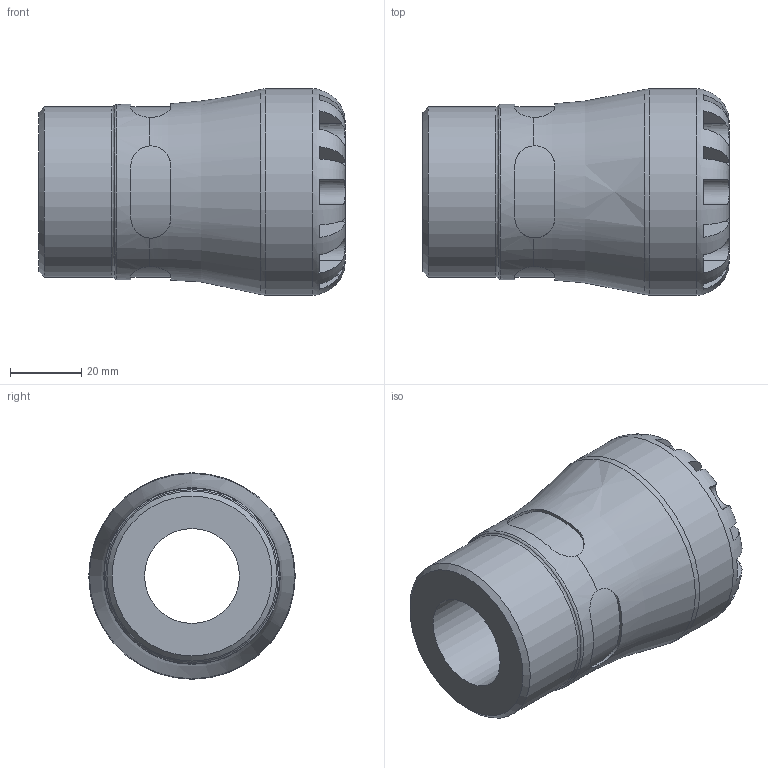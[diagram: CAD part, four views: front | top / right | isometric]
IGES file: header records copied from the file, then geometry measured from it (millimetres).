
Global section: file name: 100200032015_190200032015.ipt; native system: Autodesk Inventor 2015; preprocessor: unknown; author: KIM; date: 20170727.143946; units: millimetre
Bounding box: 86 x 58 x 58 mm (x, y, z)
Volume: 117513.7 mm3; surface area: 26491.1 mm2
Topology: 1 solids, 1 shells, 99 faces, 266 edges, 170 vertices
Faces by surface type: plane 59, revolution 24, cylinder 15, cone 1
Full cylindrical faces by diameter (mm): 47.803 x1, 49.3 x1, 58 x1
